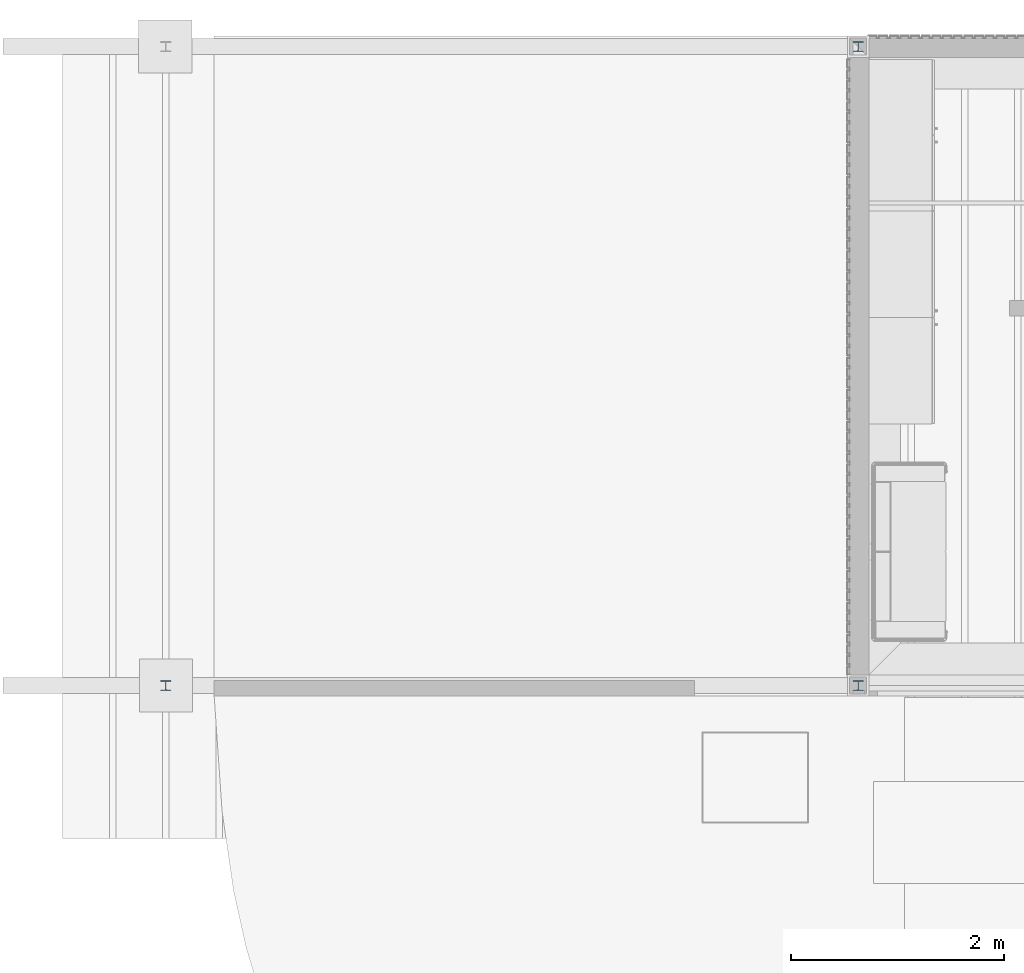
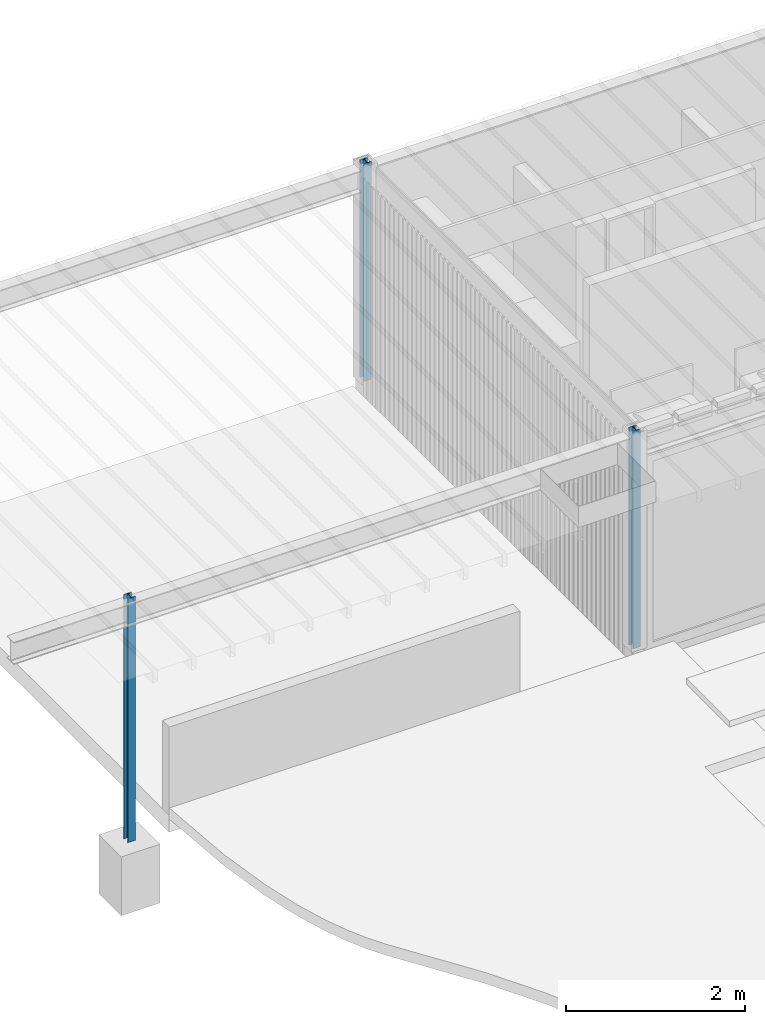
# One storey, part 8 of 28: 3 members.
"""IFC4X3_ADD2 building model written with IfcOpenShell, lengths in metres."""

from ifc_helpers import new_model, si_unit, direction, frame, origin_with_axes, origin_2d_with_axis, place, context, subcontext, project, spatial, i_section, extrude, material, element, save


model = new_model("IFC4X3_ADD2")

# Units and contexts
model_context = context("Model", 3, precision=1e-05, world=origin_with_axes(), true_north=direction((0.0, 1.0)))
body_context = subcontext(model_context, "Body", "Model", "MODEL_VIEW")
ifc_project = project(units=[si_unit("LENGTHUNIT", "METRE"), si_unit("AREAUNIT", "SQUARE_METRE"), si_unit("VOLUMEUNIT", "CUBIC_METRE"), si_unit("PLANEANGLEUNIT", "RADIAN"), si_unit("TIMEUNIT", "SECOND"), si_unit("MASSUNIT", "GRAM")], contexts=[model_context])

# Site, building, storey
site_placement = place(None, origin_with_axes())
site = spatial("IfcSite", under=ifc_project, at=site_placement, Name="Site", CompositionType="ELEMENT")
building_placement = place(site_placement, origin_with_axes())
building = spatial("IfcBuilding", under=site, at=building_placement, Name="Default Building")
storey_placement = place(building_placement, frame((0.0, 0.0, -0.08), z_axis=(0.0, 0.0, 1.0), x_axis=(1.0, 0.0, 0.0)))
storey = spatial("IfcBuildingStorey", under=building, at=storey_placement, Name="Gruendung", Elevation=-0.08)

# Members
ifc_material = material(Name="Default")
member_1_placement = place(storey_placement, frame((6.5, 22.0, 0.08), z_axis=(0.0, 0.0, 1.0), x_axis=(1.0, 0.0, 0.0)))
element("IfcMember", 1, at=member_1_placement, inside=storey, material=ifc_material, Name="Wide Flange", ObjectType="HEA 100", context=body_context, shape_type="SweptSolid", body=[
    extrude(i_section(OverallWidth=0.1, OverallDepth=0.096, WebThickness=0.005, FlangeThickness=0.008, FilletRadius=0.012, at=origin_2d_with_axis()), origin_with_axes(), (0.0, 0.0, 1.0), 2.96),
])
member_2_placement = place(storey_placement, frame((0.0, 16.0, -0.28), z_axis=(0.0, 0.0, 1.0), x_axis=(1.0, 0.0, 0.0)))
element("IfcMember", 2, at=member_2_placement, inside=storey, material=ifc_material, Name="Wide Flange", ObjectType="HEA 100", context=body_context, shape_type="SweptSolid", body=[
    extrude(i_section(OverallWidth=0.1, OverallDepth=0.096, WebThickness=0.005, FlangeThickness=0.008, FilletRadius=0.012, at=origin_2d_with_axis()), origin_with_axes(), (0.0, 0.0, 1.0), 3.32),
])
member_3_placement = place(storey_placement, frame((6.5, 16.0, 0.08), z_axis=(0.0, 0.0, 1.0), x_axis=(1.0, 0.0, 0.0)))
element("IfcMember", 3, at=member_3_placement, inside=storey, material=ifc_material, Name="Wide Flange", ObjectType="HEA 100", context=body_context, shape_type="SweptSolid", body=[
    extrude(i_section(OverallWidth=0.1, OverallDepth=0.096, WebThickness=0.005, FlangeThickness=0.008, FilletRadius=0.012, at=origin_2d_with_axis()), origin_with_axes(), (0.0, 0.0, 1.0), 2.96),
])

save(model, "model.ifc")
